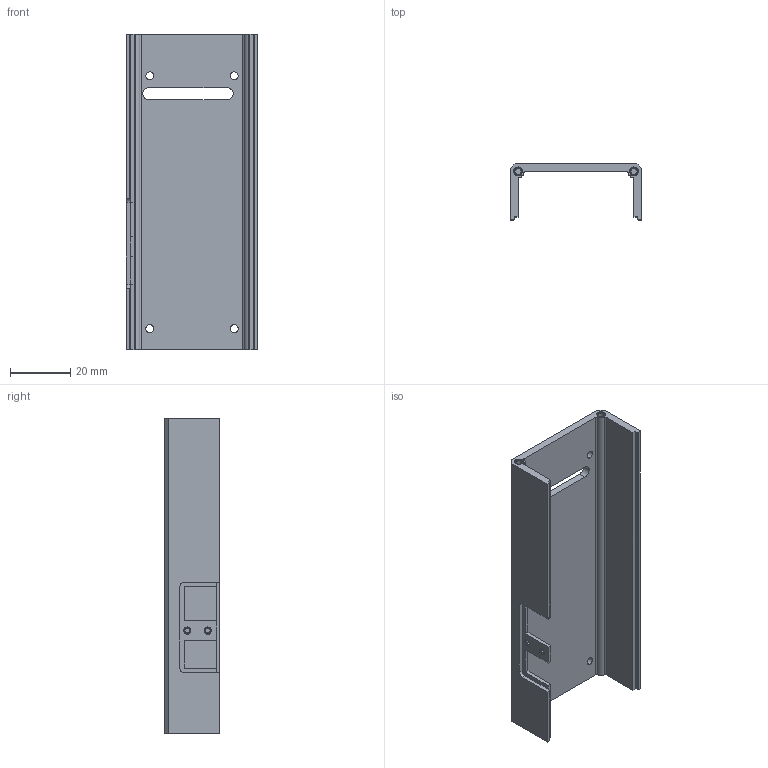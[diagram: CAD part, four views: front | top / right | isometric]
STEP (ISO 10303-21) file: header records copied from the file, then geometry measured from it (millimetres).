
FILE_DESCRIPTION(/* description */ ('VariCAD 2008 1.04 AP-203'),/* implementation_level */ '2;1');
FILE_NAME(/* name */ '0353-11-03',/* time_stamp */ '2008-07-02T15:40:32-06:00',/* author */ (''),/* organization */ (''),/* preprocessor_version */ 'ST-DEVELOPER v10',/* originating_system */ 'VariCAD 2008 1.04; kernel version (20071230)',/* authorisation */ '');
FILE_SCHEMA (('CONFIG_CONTROL_DESIGN'));
Length unit declared in the file: millimetre
Products named in the file (1): Part
Bounding box: 43.5 x 18.5 x 104.77 mm (x, y, z)
Volume: 18708.6 mm3; surface area: 16377.6 mm2
Topology: 7 solids, 7 shells, 139 faces, 335 edges, 212 vertices
Faces by surface type: cylinder 64, plane 51, cone 24
Entity records: 4183 total; most frequent: DIRECTION 773, CARTESIAN_POINT 694, ORIENTED_EDGE 670, EDGE_CURVE 335, AXIS2_PLACEMENT_3D 291, VERTEX_POINT 212, LINE 191, VECTOR 191
